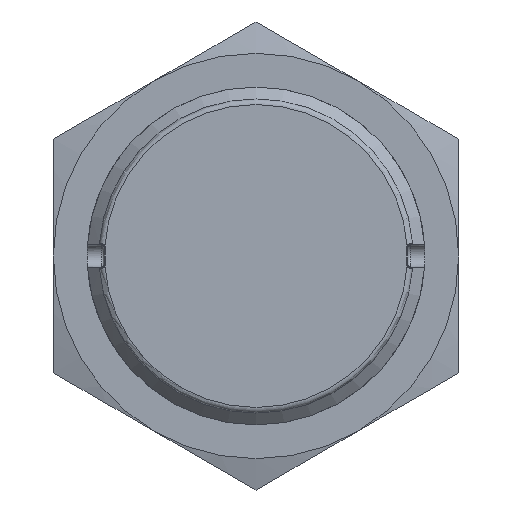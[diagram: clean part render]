
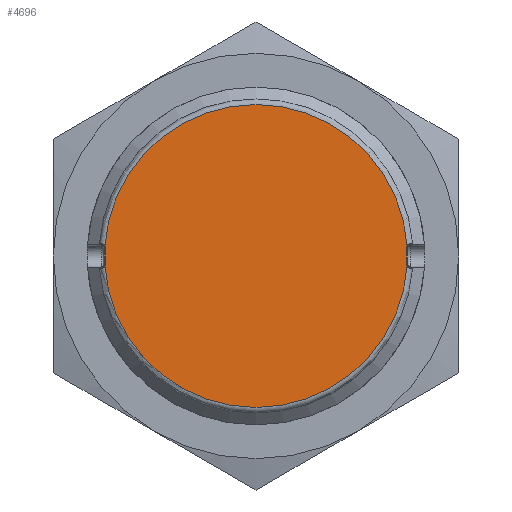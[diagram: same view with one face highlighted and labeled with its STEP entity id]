
A CAD part, left-side view. The second image highlights one B-rep face of the part: STEP entity #4696.
In plain terms, the highlighted planar face has unit normal (-1, 0, 0).
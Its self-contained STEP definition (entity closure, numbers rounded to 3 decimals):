
#1566=CARTESIAN_POINT('',(0.,-13.7,0.8));
#1567=DIRECTION('',(1.,0.,0.));
#1568=DIRECTION('',(0.,1.,0.));
#1569=AXIS2_PLACEMENT_3D('',#1566,#1567,#1568);
#1574=DIRECTION('',(0.,0.,1.));
#1575=VECTOR('',#1574,1.6);
#1576=CARTESIAN_POINT('',(0.,-13.4,-0.8));
#1577=LINE('',#1576,#1575);
#1581=CARTESIAN_POINT('',(0.,-13.7,-0.8));
#1582=DIRECTION('',(1.,0.,0.));
#1583=DIRECTION('',(0.,0.935,-0.354));
#1584=AXIS2_PLACEMENT_3D('',#1581,#1582,#1583);
#1589=CARTESIAN_POINT('',(0.,0.,0.));
#1590=DIRECTION('',(-1.,0.,0.));
#1591=DIRECTION('',(0.,0.998,-0.067));
#1592=AXIS2_PLACEMENT_3D('',#1589,#1590,#1591);
#1597=CARTESIAN_POINT('',(0.,13.7,-0.8));
#1598=DIRECTION('',(1.,0.,0.));
#1599=DIRECTION('',(0.,-1.,0.));
#1600=AXIS2_PLACEMENT_3D('',#1597,#1598,#1599);
#1605=DIRECTION('',(0.,0.,-1.));
#1606=VECTOR('',#1605,1.6);
#1607=CARTESIAN_POINT('',(0.,13.4,0.8));
#1608=LINE('',#1607,#1606);
#1612=CARTESIAN_POINT('',(0.,13.7,0.8));
#1613=DIRECTION('',(1.,0.,0.));
#1614=DIRECTION('',(0.,-0.935,0.354));
#1615=AXIS2_PLACEMENT_3D('',#1612,#1613,#1614);
#1620=CARTESIAN_POINT('',(0.,0.,0.));
#1621=DIRECTION('',(-1.,0.,0.));
#1622=DIRECTION('',(0.,-0.998,0.067));
#1623=AXIS2_PLACEMENT_3D('',#1620,#1621,#1622);
#1656=CARTESIAN_POINT('',(0.,-13.419,
0.906));
#2118=CARTESIAN_POINT('',(0.,13.419,
-0.906));
#3170=VERTEX_POINT('',#1656);
#3172=CARTESIAN_POINT('',(0.,-13.4,0.8));
#3173=VERTEX_POINT('',#3172);
#3176=CARTESIAN_POINT('',(0.,-13.4,-0.8));
#3177=VERTEX_POINT('',#3176);
#3180=CARTESIAN_POINT('',(0.,-13.419,-0.906));
#3181=VERTEX_POINT('',#3180);
#3202=VERTEX_POINT('',#2118);
#3204=CARTESIAN_POINT('',(0.,13.4,-0.8));
#3205=VERTEX_POINT('',#3204);
#3208=CARTESIAN_POINT('',(0.,13.4,0.8));
#3209=VERTEX_POINT('',#3208);
#3212=CARTESIAN_POINT('',(0.,13.419,0.906));
#3213=VERTEX_POINT('',#3212);
#4674=CARTESIAN_POINT('',(0.,0.,0.));
#4675=DIRECTION('',(1.,0.,0.));
#4676=DIRECTION('',(0.,-1.,0.));
#4677=AXIS2_PLACEMENT_3D('',#4674,#4675,#4676);
#4678=PLANE('',#4677);
#4680=ORIENTED_EDGE('',*,*,#4679,.F.);
#4682=ORIENTED_EDGE('',*,*,#4681,.F.);
#4684=ORIENTED_EDGE('',*,*,#4683,.F.);
#4686=ORIENTED_EDGE('',*,*,#4685,.F.);
#4688=ORIENTED_EDGE('',*,*,#4687,.F.);
#4689=ORIENTED_EDGE('',*,*,#4657,.F.);
#4691=ORIENTED_EDGE('',*,*,#4690,.F.);
#4693=ORIENTED_EDGE('',*,*,#4692,.F.);
#4694=EDGE_LOOP('',(#4680,#4682,#4684,#4686,#4688,#4689,#4691,#4693));
#4695=FACE_OUTER_BOUND('',#4694,.F.);
#1570=CIRCLE('',#1569,0.3);
#1585=CIRCLE('',#1584,0.3);
#1593=CIRCLE('',#1592,13.45);
#1601=CIRCLE('',#1600,0.3);
#1616=CIRCLE('',#1615,0.3);
#1624=CIRCLE('',#1623,13.45);
#4657=EDGE_CURVE('',#3209,#3205,#1608,.T.);
#4679=EDGE_CURVE('',#3173,#3170,#1570,.T.);
#4681=EDGE_CURVE('',#3177,#3173,#1577,.T.);
#4683=EDGE_CURVE('',#3181,#3177,#1585,.T.);
#4685=EDGE_CURVE('',#3202,#3181,#1593,.T.);
#4687=EDGE_CURVE('',#3205,#3202,#1601,.T.);
#4690=EDGE_CURVE('',#3213,#3209,#1616,.T.);
#4692=EDGE_CURVE('',#3170,#3213,#1624,.T.);
#4696=ADVANCED_FACE('',(#4695),#4678,.F.);
